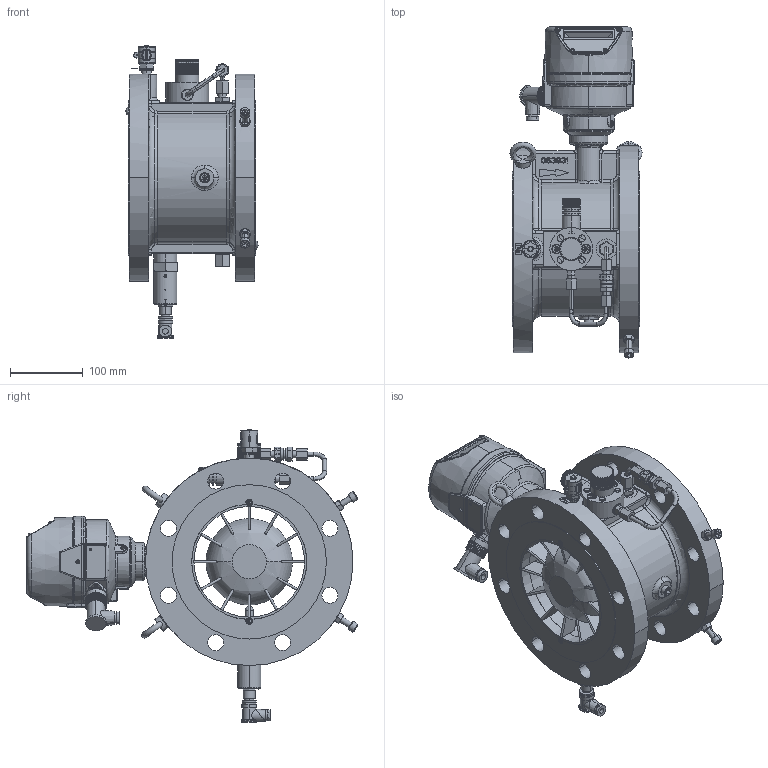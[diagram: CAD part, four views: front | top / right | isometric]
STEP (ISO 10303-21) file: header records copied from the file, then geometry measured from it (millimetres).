
FILE_DESCRIPTION((''),'2;1');
FILE_NAME('063823_1_L_ASM_ASM','2015-07-21T',('E469875'),(''),'PRO/ENGINEER BY PARAMETRIC TECHNOLOGY CORPORATION, 2014200','PRO/ENGINEER BY PARAMETRIC TECHNOLOGY CORPORATION, 2014200','');
FILE_SCHEMA(('CONFIG_CONTROL_DESIGN'));
Products named in the file (61): MSBR-59; MSBR-58; MSBR-57; MSBR-56; MSBR-55; MSBR-54; MSBR-53; MSBR-52; MSBR-51; MSBR-50; MSBR-49; MSBR-48; MSBR-47; MSBR-46; MSBR-45; MSBR-44; MSBR-43; MSBR-42; MSBR-41; MSBR-40; MSBR-39; MSBR-38; MSBR-37; MSBR-36; MSBR-35; MSBR-34; MSBR-33; MSBR-32; MSBR-31; MSBR-30; MSBR-29; MSBR-28; MSBR-27; MSBR-26; MSBR-25; MSBR-24; MSBR-23; MSBR-22; MSBR-21; MSBR-20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
Assembly tree (60 placements, depth 2):
  063823_1_L_ASM_ASM
    MSBR-59
    MSBR-58
    MSBR-57
    MSBR-56
    MSBR-55
    MSBR-54
    MSBR-53
    MSBR-52
    MSBR-51
    MSBR-50
    MSBR-49
    MSBR-48
    MSBR-47
    MSBR-46
    MSBR-45
    MSBR-44
    MSBR-43
    MSBR-42
    MSBR-41
    MSBR-40
    MSBR-39
    MSBR-38
    MSBR-37
    MSBR-36
    MSBR-35
    MSBR-34
    MSBR-33
    MSBR-32
    MSBR-31
    MSBR-30
    MSBR-29
    MSBR-28
    MSBR-27
    MSBR-26
    MSBR-25
    MSBR-24
    MSBR-23
    MSBR-22
    MSBR-21
    MSBR-20
    MSBR-19
    MSBR-18
    MSBR-17
    MSBR-16
    MSBR-15
    MSBR-14
    MSBR-13
    MSBR-12
    MSBR-11
    MSBR-10
    MSBR-9
    MSBR-8
    MSBR-7
    MSBR-6
    MSBR-5
    MSBR-4
    MSBR-3
    MSBR-2
    MSBR-1
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Bounding box: 181.4 x 455.81 x 401.41 mm (x, y, z)
Volume: 3880840 mm3; surface area: 778343.2 mm2
Topology: 59 solids, 90 shells, 3285 faces, 8265 edges, 5259 vertices
Faces by surface type: plane 1703, cylinder 973, cone 272, torus 170, bspline 95, sphere 42, extrusion 30
Entity records: 109160 total; most frequent: CARTESIAN_POINT 29761, ORIENTED_EDGE 16278, DIRECTION 16158, EDGE_CURVE 8201, AXIS2_PLACEMENT_3D 5828, VERTEX_POINT 5259, VECTOR 4502, LINE 4472
